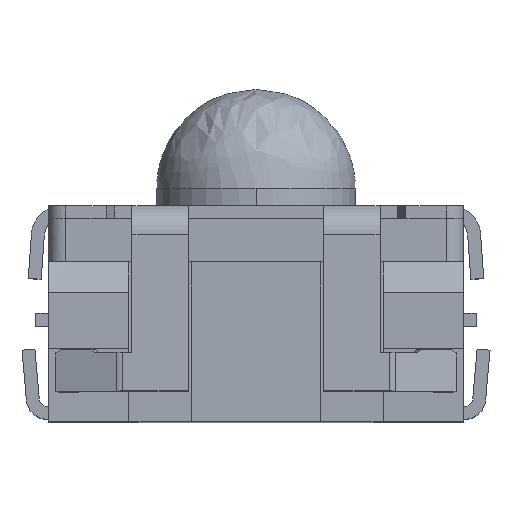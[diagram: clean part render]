
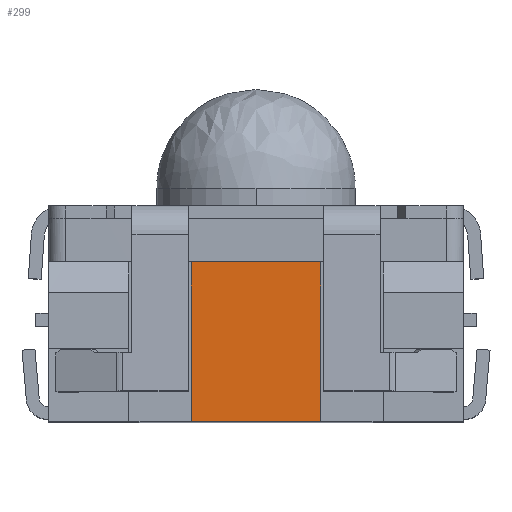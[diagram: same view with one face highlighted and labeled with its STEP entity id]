
A CAD part, top view. The second image highlights one B-rep face of the part: STEP entity #299.
In plain terms, the highlighted planar face has unit normal (0, 0, 1).
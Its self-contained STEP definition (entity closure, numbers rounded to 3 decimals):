
#271 = CARTESIAN_POINT ( 'NONE',  ( 0., 1.85, 2.7 ) ) ;
#299 = ADVANCED_FACE ( 'NONE', ( #4852 ), #3667, .F. ) ;
#740 = VERTEX_POINT ( 'NONE', #7262 ) ;
#1305 = ORIENTED_EDGE ( 'NONE', *, *, #11603, .F. ) ;
#1970 = DIRECTION ( 'NONE',  ( -1., 0., 0. ) ) ;
#2000 = VERTEX_POINT ( 'NONE', #8406 ) ;
#2274 = VERTEX_POINT ( 'NONE', #4189 ) ;
#2437 = ORIENTED_EDGE ( 'NONE', *, *, #11132, .F. ) ;
#2503 = LINE ( 'NONE', #9004, #4642 ) ;
#2552 = DIRECTION ( 'NONE',  ( 0., 1., 0. ) ) ;
#2780 = EDGE_LOOP ( 'NONE', ( #7760, #1305, #4328, #2437 ) ) ;
#3164 = CARTESIAN_POINT ( 'NONE',  ( 0., 0., 2.7 ) ) ;
#3275 = CARTESIAN_POINT ( 'NONE',  ( 0.75, 1.85, 2.7 ) ) ;
#3667 = PLANE ( 'NONE',  #11697 ) ;
#3872 = CARTESIAN_POINT ( 'NONE',  ( -0.75, 1.85, 2.7 ) ) ;
#4189 = CARTESIAN_POINT ( 'NONE',  ( 0.75, 1.85, 2.7 ) ) ;
#4191 = DIRECTION ( 'NONE',  ( 0., -1., 0. ) ) ;
#4328 = ORIENTED_EDGE ( 'NONE', *, *, #7119, .F. ) ;
#4642 = VECTOR ( 'NONE', #2552, 1000. ) ;
#4852 = FACE_OUTER_BOUND ( 'NONE', #2780, .T. ) ;
#5398 = LINE ( 'NONE', #7880, #10022 ) ;
#5753 = VERTEX_POINT ( 'NONE', #3872 ) ;
#6372 = DIRECTION ( 'NONE',  ( 0., 0., -1. ) ) ;
#6753 = EDGE_CURVE ( 'NONE', #2000, #740, #9608, .T. ) ;
#7119 = EDGE_CURVE ( 'NONE', #5753, #2274, #5398, .T. ) ;
#7262 = CARTESIAN_POINT ( 'NONE',  ( -0.75, 0., 2.7 ) ) ;
#7760 = ORIENTED_EDGE ( 'NONE', *, *, #6753, .F. ) ;
#7880 = CARTESIAN_POINT ( 'NONE',  ( 0., 1.85, 2.7 ) ) ;
#8366 = VECTOR ( 'NONE', #4191, 1000. ) ;
#8406 = CARTESIAN_POINT ( 'NONE',  ( 0.75, 0., 2.7 ) ) ;
#8684 = DIRECTION ( 'NONE',  ( -1., 0., 0. ) ) ;
#8821 = DIRECTION ( 'NONE',  ( 1., 0., 0. ) ) ;
#9004 = CARTESIAN_POINT ( 'NONE',  ( -0.75, 1.85, 2.7 ) ) ;
#9303 = VECTOR ( 'NONE', #8684, 1000. ) ;
#9608 = LINE ( 'NONE', #3164, #9303 ) ;
#10022 = VECTOR ( 'NONE', #8821, 1000. ) ;
#11105 = LINE ( 'NONE', #3275, #8366 ) ;
#11132 = EDGE_CURVE ( 'NONE', #740, #5753, #2503, .T. ) ;
#11603 = EDGE_CURVE ( 'NONE', #2274, #2000, #11105, .T. ) ;
#11697 = AXIS2_PLACEMENT_3D ( 'NONE', #271, #6372, #1970 ) ;
